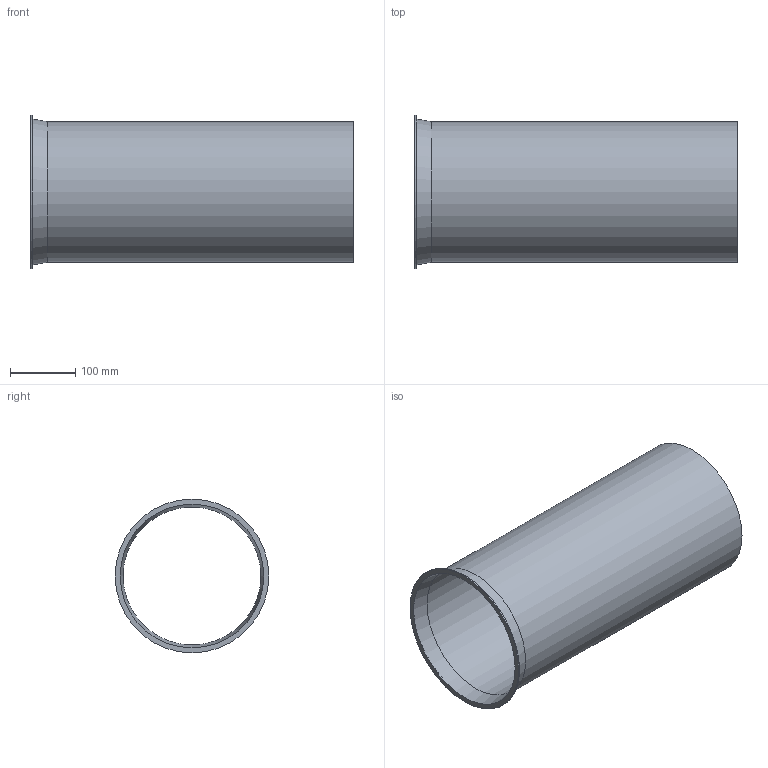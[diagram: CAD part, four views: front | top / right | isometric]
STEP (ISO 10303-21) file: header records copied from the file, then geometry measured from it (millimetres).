
FILE_DESCRIPTION((''),'2;1');
FILE_NAME('U:\Wolfgang\Marcel-3D\fertig\Kapitel 1\2211007.stp','2010-05-31T11:32:06',('TK2'),(''),'Autodesk Inventor 2010','Autodesk Inventor 2010','');
FILE_SCHEMA(('AUTOMOTIVE_DESIGN { 1 0 10303 214 1 1 1 1 }'));
Length unit declared in the file: millimetre
Products named in the file (1): 2211007
Bounding box: 493 x 235 x 235 mm (x, y, z)
Volume: 669369.1 mm3; surface area: 672173.1 mm2
Topology: 1 solids, 1 shells, 8 faces, 14 edges, 9 vertices
Faces by surface type: cylinder 3, plane 3, cone 2
Full cylindrical faces by diameter (mm): 211 x1, 215 x1, 235 x1
Entity records: 194 total; most frequent: DIRECTION 34, CARTESIAN_POINT 25, AXIS2_PLACEMENT_3D 17, ORIENTED_EDGE 16, EDGE_LOOP 16, VERTEX_POINT 8, CIRCLE 8, EDGE_CURVE 8
